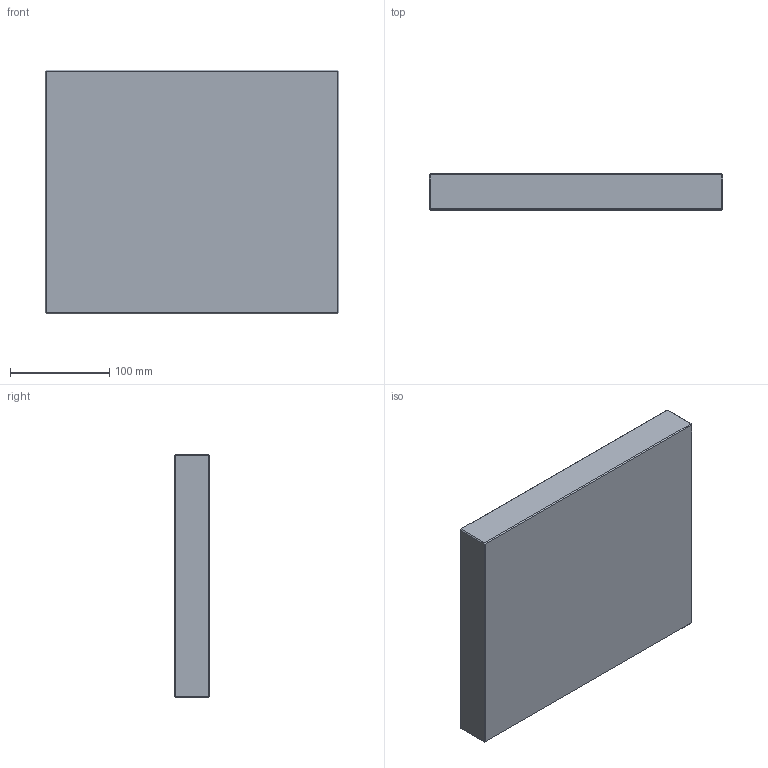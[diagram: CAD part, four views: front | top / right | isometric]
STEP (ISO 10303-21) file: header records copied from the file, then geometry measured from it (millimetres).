
FILE_DESCRIPTION (( 'STEP AP214' ), '1' );
FILE_NAME ('PBA-P-246x246x36.STEP', '2020-03-11T15:27:42', ( 'August' ), ( '' ), 'SwSTEP 2.0', 'SolidWorks 2018', '' );
FILE_SCHEMA (( 'AUTOMOTIVE_DESIGN' ));
Length unit declared in the file: millimetre
Products named in the file (1): PBA-P-246x246x36
Bounding box: 296 x 36 x 246 mm (x, y, z)
Volume: 2620225.3 mm3; surface area: 183298.6 mm2
Topology: 1 solids, 1 shells, 26 faces, 48 edges, 24 vertices
Faces by surface type: plane 26
Entity records: 634 total; most frequent: DIRECTION 102, CARTESIAN_POINT 99, ORIENTED_EDGE 96, VECTOR 48, LINE 48, EDGE_CURVE 48, AXIS2_PLACEMENT_3D 27, EDGE_LOOP 26
